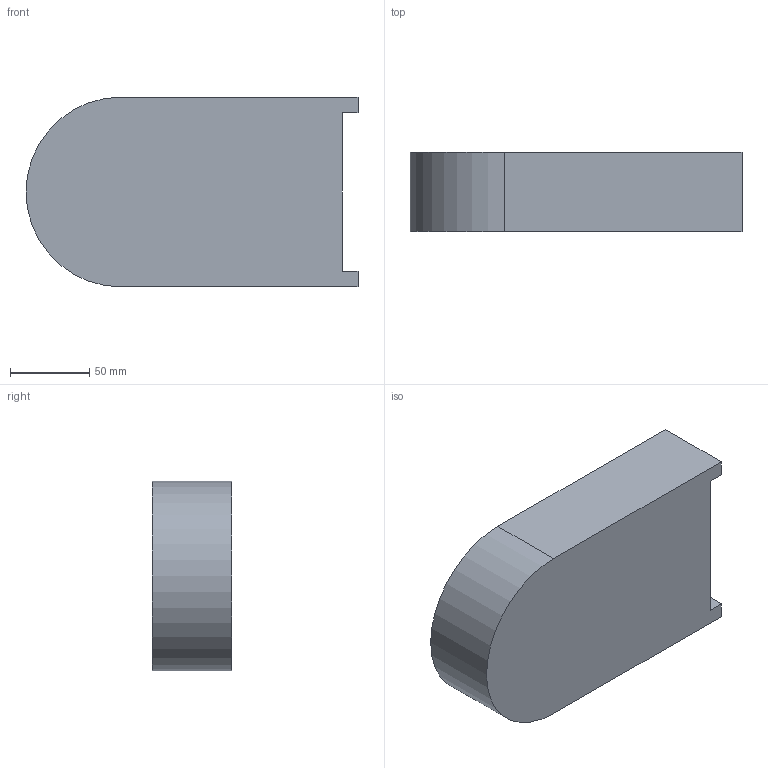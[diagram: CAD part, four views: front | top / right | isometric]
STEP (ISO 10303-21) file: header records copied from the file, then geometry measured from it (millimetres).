
FILE_DESCRIPTION (( 'STEP AP203' ), '1' );
FILE_NAME ('basewall.STEP', '2017-06-25T11:37:30', ( '' ), ( '' ), 'SwSTEP 2.0', 'SolidWorks 2016', '' );
FILE_SCHEMA (( 'CONFIG_CONTROL_DESIGN' ));
Length unit declared in the file: millimetre
Products named in the file (1): basewall
Bounding box: 210 x 50 x 120 mm (x, y, z)
Volume: 415663.7 mm3; surface area: 90217.7 mm2
Topology: 1 solids, 1 shells, 12 faces, 30 edges, 20 vertices
Faces by surface type: plane 10, cylinder 2
Entity records: 435 total; most frequent: CARTESIAN_POINT 63, ORIENTED_EDGE 60, DIRECTION 60, EDGE_CURVE 30, VECTOR 26, LINE 26, VERTEX_POINT 20, AXIS2_PLACEMENT_3D 17
